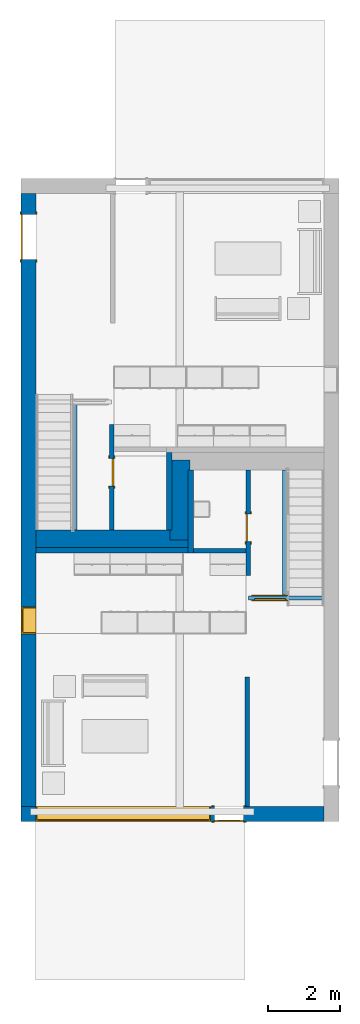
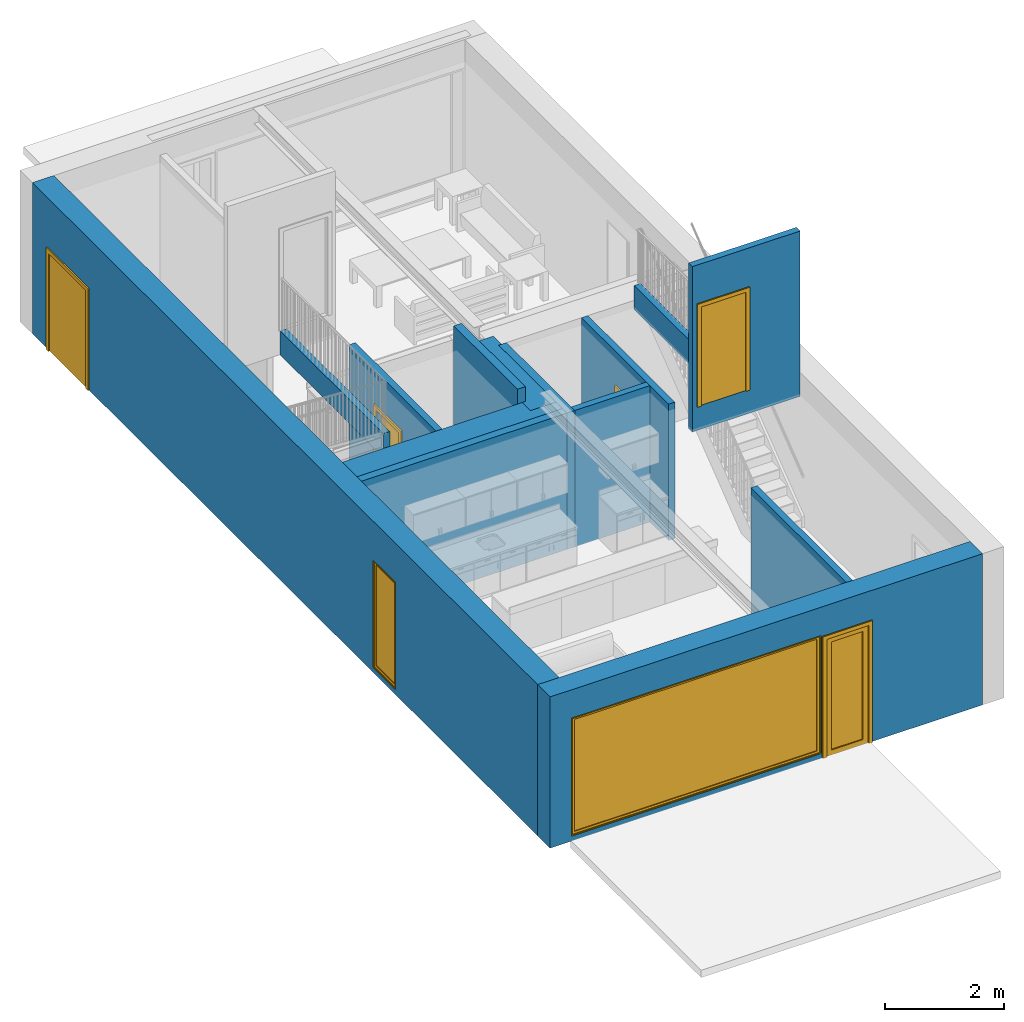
"""IFC4 building model written with IfcOpenShell, lengths in metres."""

from ifc_helpers import new_model, entity, si_unit, converted_unit, frame, frame_2d, origin, origin_2d_with_axis, place, context, project, spatial, polyline, rectangle, outline, extrude, clip, bounded_halfspace, source, transform, mapped, material, layer, layer_set, layer_usage, type_object, type_shapes, element, fill, save


model = new_model("IFC4")

# Units and contexts
model_context = context("Model", 3, precision=1e-09, world=origin())
plan_context = context("Plan", 3, precision=1e-09, world=origin())
ifc_project = project(units=[si_unit("LENGTHUNIT", "METRE"), si_unit("AREAUNIT", "SQUARE_METRE"), si_unit("VOLUMEUNIT", "CUBIC_METRE"), converted_unit("PLANEANGLEUNIT", "DEGREE", entity("IfcRatioMeasure", 0.01745329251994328), si_unit("PLANEANGLEUNIT", "RADIAN"), dimensions=[0, 0, 0, 0, 0, 0, 0]), si_unit("TIMEUNIT", "SECOND")], contexts=[model_context, plan_context])

# Site, building, storey
site_placement = place(None, origin())
site = spatial("IfcSite", under=ifc_project, at=site_placement, Name="Default", CompositionType="ELEMENT")
building_placement = place(site_placement, origin())
building = spatial("IfcBuilding", under=site, at=building_placement, CompositionType="ELEMENT")
storey_1_placement = place(building_placement, origin())
storey_1 = spatial("IfcBuildingStorey", under=building, at=storey_1_placement, Name="Level 1", CompositionType="ELEMENT", Elevation=0.0)

# Wall, opening
ifc_material_1 = material(Name="Plasterboard")
ifc_layer_1 = layer(ifc_material_1, 0.016)
ifc_material_2 = material(Name="Metal - Stud Layer")
ifc_layer_2 = layer(ifc_material_2, 0.092)
ifc_layer_3 = layer(ifc_material_1, 0.016)
ifc_layer_set_1 = layer_set([ifc_layer_1, ifc_layer_2, ifc_layer_3], Name="Basic Wall:Interior - Partition (92mm Stud)")
ifc_layer_usage_1 = layer_usage(ifc_layer_set_1, "AXIS2", "NEGATIVE", 0.062)
wall_1_placement = place(storey_1_placement, frame((8.382999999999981, -11.612, 2.612000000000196), z_axis=(0.0, 0.0, 1.0), x_axis=(-1.0, 0.0, 0.0)))
wall_1 = element("IfcWall", 1, at=wall_1_placement, inside=storey_1, material=ifc_layer_usage_1, Name="Basic Wall:Interior - Partition (92mm Stud)", ObjectType="Basic Wall:Interior - Partition (92mm Stud)", PredefinedType="SOLIDWALL", context=model_context, shape_type="SweptSolid", body=[
    extrude(rectangle(XDim=2.088999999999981, YDim=0.1240000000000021, at=frame_2d((1.04449999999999, 0.0), x_axis=(-1.0, 0.0))), origin(), (0.0, 0.0, 1.0), 3.388000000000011),
])
opening_1_placement = place(wall_1_placement, frame((1.061699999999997, -0.06200000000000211, 0.4880000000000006)))
opening_1 = element("IfcOpeningElement", 2, at=opening_1_placement, cuts=wall_1, Name="M_Single-Flush:0864 x 2032mm:0864 x 2032mm:1", ObjectType="Opening", context=model_context, shape_type="SweptSolid", body=[
    extrude(rectangle(XDim=0.8639999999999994, YDim=2.032, at=frame_2d((1.016, 0.4319999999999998), x_axis=(0.0, 1.0))), frame((0.0, 0.0, 0.0), z_axis=(0.0, 1.0, 0.0), x_axis=(0.0, 0.0, 1.0)), (0.0, 0.0, 1.0), 0.124),
])

# Storey
storey_2_placement = place(building_placement, frame((0.0, 0.0, 3.100000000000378)))
storey_2 = spatial("IfcBuildingStorey", under=building, at=storey_2_placement, Name="Level 2", CompositionType="ELEMENT", Elevation=3.100000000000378)

# Door
door_type_1 = type_object("IfcDoorType", Name="0864 x 2032mm", OperationType="SINGLE_SWING_RIGHT", ParameterTakesPrecedence=False, PredefinedType="DOOR")
shared_shape_1 = source(origin(), model_context, "Body", "SweptSolid", [
    extrude(outline(polyline([(-0.5079999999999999, -1.072999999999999), (0.5079999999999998, -1.072999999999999), (0.5079999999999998, 1.035000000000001), (0.4319999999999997, 1.035000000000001), (0.4319999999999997, -0.9970000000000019), (-0.4319999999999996, -0.9970000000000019), (-0.4319999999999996, 1.035000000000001), (-0.5079999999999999, 1.035000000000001), (-0.5079999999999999, -1.072999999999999)])), frame((0.4320000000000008, 0.1239999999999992, 1.035000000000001), z_axis=(0.0, 1.0, 0.0), x_axis=(1.0, 0.0, 0.0)), (0.0, 0.0, 1.0), 0.02499999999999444),
    extrude(outline(polyline([(-1.073, -0.5079999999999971), (1.035, -0.5079999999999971), (1.035, -0.4320000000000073), (-0.9969999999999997, -0.4320000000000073), (-0.9969999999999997, 0.4320000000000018), (1.035, 0.4320000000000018), (1.035, 0.5080000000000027), (-1.073, 0.5080000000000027), (-1.073, -0.5079999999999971)])), frame((0.4320000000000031, -0.02500000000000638, 1.035), z_axis=(0.0, 1.0, 0.0), x_axis=(0.0, 0.0, -1.0)), (0.0, 0.0, 1.0), 0.02500000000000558),
    extrude(rectangle(XDim=0.051, YDim=0.8639999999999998, at=origin_2d_with_axis()), frame((0.4320000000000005, 0.0984999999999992, 0.0), z_axis=(0.0, 0.0, 1.0), x_axis=(0.0, 1.0, 0.0)), (0.0, 0.0, 1.0), 2.032),
])
type_shapes(door_type_1, [shared_shape_1])
door_1_placement = place(opening_1_placement, origin())
door_1 = element("IfcDoor", 3, at=door_1_placement, inside=storey_2, type_object=door_type_1, Name="M_Single-Flush:0864 x 2032mm:0864 x 2032mm", ObjectType="0864 x 2032mm", OverallHeight=2.032, OverallWidth=0.8639999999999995, context=model_context, shape_type="MappedRepresentation", body=[
    mapped(shared_shape_1, transform((0.0, 0.0, 0.0), scale=1.0)),
])

fill(opening_1, door_1)

# Wall
ifc_layer_4 = layer(ifc_material_2, 0.136)
ifc_layer_5 = layer(ifc_material_1, 0.016)
ifc_layer_set_2 = layer_set([ifc_layer_4, ifc_layer_5], Name="Basic Wall:Interior - Furring (152 mm Stud)")
ifc_layer_usage_2 = layer_usage(ifc_layer_set_2, "AXIS2", "POSITIVE", -0.07600000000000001)
wall_2_placement = place(storey_1_placement, frame((4.105999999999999, -9.725000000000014, 0.0), z_axis=(0.0, 0.0, 1.0), x_axis=(0.0, 1.0, 0.0)))
element("IfcWall", 4, at=wall_2_placement, inside=storey_1, material=ifc_layer_usage_2, Name="Basic Wall:Interior - Furring (152 mm Stud)", ObjectType="Basic Wall:Interior - Furring (152 mm Stud)", PredefinedType="SOLIDWALL", context=model_context, shape_type="SweptSolid", body=[
    extrude(rectangle(XDim=2.143000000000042, YDim=0.1520000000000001, at=frame_2d((1.071500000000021, 0.0), x_axis=(-1.0, 0.0))), origin(), (0.0, 0.0, 1.0), 3.100000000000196),
])

# Wall, opening, door
ifc_layer_usage_3 = layer_usage(ifc_layer_set_1, "AXIS2", "NEGATIVE", 0.062)
wall_3_placement = place(storey_1_placement, frame((6.287999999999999, -10.99500000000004, 0.0), z_axis=(0.0, 0.0, 1.0), x_axis=(0.0, 1.0, 0.0)))
wall_3 = element("IfcWall", 5, at=wall_3_placement, inside=storey_1, material=ifc_layer_usage_3, Name="Basic Wall:Interior - Partition (92mm Stud)", ObjectType="Basic Wall:Interior - Partition (92mm Stud)", PredefinedType="SOLIDWALL", context=model_context, shape_type="SweptSolid", body=[
    extrude(rectangle(XDim=2.92000000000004, YDim=0.124, at=frame_2d((1.46000000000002, 0.0), x_axis=(-1.0, 0.0))), origin(), (0.0, 0.0, 1.0), 2.795000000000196),
])
opening_2_placement = place(wall_3_placement, frame((0.9420000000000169, -0.06200000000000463, 0.0)))
opening_2 = element("IfcOpeningElement", 6, at=opening_2_placement, cuts=wall_3, Name="M_Single-Flush:0762 x 2032mm:0762 x 2032mm:1", ObjectType="Opening", context=model_context, shape_type="SweptSolid", body=[
    extrude(rectangle(XDim=0.7619999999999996, YDim=2.032, at=frame_2d((1.016, 0.3810000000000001), x_axis=(0.0, -1.0))), frame((0.0, 0.0, 0.0), z_axis=(0.0, 1.0, 0.0), x_axis=(0.0, 0.0, 1.0)), (0.0, 0.0, 1.0), 0.124),
])
door_type_2 = type_object("IfcDoorType", Name="0762 x 2032mm", OperationType="SINGLE_SWING_LEFT", ParameterTakesPrecedence=False, PredefinedType="DOOR")
shared_shape_2 = source(origin(), model_context, "Body", "SweptSolid", [
    extrude(outline(polyline([(-0.457, -1.072999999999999), (0.4569999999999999, -1.072999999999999), (0.4569999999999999, 1.035000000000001), (0.3809999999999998, 1.035000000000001), (0.3809999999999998, -0.9970000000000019), (-0.3809999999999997, -0.9970000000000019), (-0.3809999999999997, 1.035000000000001), (-0.457, 1.035000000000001), (-0.457, -1.072999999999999)])), frame((0.381, 0.1489999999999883, 1.035000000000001), z_axis=(0.0, -1.0, 0.0), x_axis=(-1.0, 0.0, 0.0)), (0.0, 0.0, 1.0), 0.02499999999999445),
    extrude(outline(polyline([(-1.073, -0.4569999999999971), (1.035, -0.4569999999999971), (1.035, -0.3810000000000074), (-0.9969999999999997, -0.3810000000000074), (-0.9969999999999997, 0.3810000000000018), (1.035, 0.3810000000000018), (1.035, 0.4570000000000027), (-1.073, 0.4570000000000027), (-1.073, -0.4569999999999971)])), frame((0.3809999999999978, 0.0, 1.035), z_axis=(0.0, -1.0, 0.0), x_axis=(0.0, 0.0, -1.0)), (0.0, 0.0, 1.0), 0.02500000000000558),
    extrude(rectangle(XDim=0.7619999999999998, YDim=0.051, at=origin_2d_with_axis()), frame((0.3810000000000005, 0.09849999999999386, 0.0)), (0.0, 0.0, 1.0), 2.032),
])
type_shapes(door_type_2, [shared_shape_2])
door_2_placement = place(opening_2_placement, origin())
door_2 = element("IfcDoor", 7, at=door_2_placement, inside=storey_1, type_object=door_type_2, Name="M_Single-Flush:0762 x 2032mm:0762 x 2032mm", ObjectType="0762 x 2032mm", OverallHeight=2.032, OverallWidth=0.7619999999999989, context=model_context, shape_type="MappedRepresentation", body=[
    mapped(shared_shape_2, transform((0.0, 0.0, 0.0), scale=1.0)),
])
fill(opening_2, door_2)

# Walls
ifc_layer_usage_4 = layer_usage(ifc_layer_set_1, "AXIS2", "NEGATIVE", 0.062)
wall_4_placement = place(storey_1_placement, frame((4.769999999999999, -10.30800000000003, 0.0)))
element("IfcWall", 8, at=wall_4_placement, inside=storey_1, material=ifc_layer_usage_4, Name="Basic Wall:Interior - Partition (92mm Stud)", ObjectType="Basic Wall:Interior - Partition (92mm Stud)", PredefinedType="SOLIDWALL", context=model_context, shape_type="SweptSolid", body=[
    extrude(rectangle(XDim=1.456000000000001, YDim=0.1240000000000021, at=frame_2d((0.7280000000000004, 0.0), x_axis=(-1.0, 0.0))), origin(), (0.0, 0.0, 1.0), 2.795000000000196),
])
ifc_layer_6 = layer(ifc_material_1, 0.016)
ifc_layer_7 = layer(ifc_material_2, 0.041)
ifc_material_3 = material(Name="Masonry - Concrete Block")
ifc_layer_8 = layer(ifc_material_3, 0.193)
ifc_material_4 = material(Name="Misc. Air Layers - Air Space")
ifc_layer_9 = layer(ifc_material_4, 0.05)
ifc_layer_10 = layer(ifc_material_3, 0.193)
ifc_layer_11 = layer(ifc_material_2, 0.041)
ifc_layer_12 = layer(ifc_material_1, 0.016)
ifc_layer_set_3 = layer_set([ifc_layer_6, ifc_layer_7, ifc_layer_8, ifc_layer_9, ifc_layer_10, ifc_layer_11, ifc_layer_12], Name="Basic Wall:Party Wall - CMU Residential Unit Dimising Wall")
ifc_layer_usage_5 = layer_usage(ifc_layer_set_3, "AXIS2", "NEGATIVE", 0.2750000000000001)
wall_5_placement = place(storey_1_placement, frame((0.4169999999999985, -10.0, 0.0)))
element("IfcWall", 9, at=wall_5_placement, inside=storey_1, material=ifc_layer_usage_5, Name="Basic Wall:Party Wall - CMU Residential Unit Dimising Wall", ObjectType="Basic Wall:Party Wall - CMU Residential Unit Dimising Wall", PredefinedType="SOLIDWALL", context=model_context, shape_type="Clipping", body=[
    clip(clip(extrude(rectangle(XDim=4.201000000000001, YDim=0.5499999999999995, at=frame_2d((2.1005, 0.0), x_axis=(-1.0, 0.0))), origin(), (0.0, 0.0, 1.0), 2.795000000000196), bounded_halfspace(frame((0.0, -0.2180000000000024, 0.0), z_axis=(0.0, 1.0, 0.0), x_axis=(-1.0, 0.0, 0.0)), True, frame((0.0, -0.2180000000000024, 0.0), z_axis=(0.0, 1.0, 0.0), x_axis=(-1.0, 0.0, 0.0)), polyline([(0.0, 0.0), (0.0, 2.795000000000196), (-4.201, 2.795000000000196), (-4.201, 0.0), (0.0, 0.0)]))), bounded_halfspace(frame((4.201000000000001, 0.2749999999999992, 0.0), z_axis=(-1.0, 0.0, 0.0), x_axis=(0.0, -1.0, 0.0)), True, frame((4.201000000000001, 0.2749999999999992, 0.0), z_axis=(-1.0, 0.0, 0.0), x_axis=(0.0, -1.0, 0.0)), polyline([(0.0, 0.0), (0.4929999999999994, 0.0), (0.4929999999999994, 2.795000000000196), (0.0, 2.795000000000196), (0.0, 0.0)]))),
])
ifc_layer_usage_6 = layer_usage(ifc_layer_set_3, "AXIS2", "NEGATIVE", 0.2750000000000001)
wall_6_placement = place(storey_1_placement, frame((4.4, -10.0, 0.0), z_axis=(0.0, 0.0, 1.0), x_axis=(0.0, 1.0, 0.0)))
element("IfcWall", 10, at=wall_6_placement, inside=storey_1, material=ifc_layer_usage_6, Name="Basic Wall:Party Wall - CMU Residential Unit Dimising Wall", ObjectType="Basic Wall:Party Wall - CMU Residential Unit Dimising Wall", PredefinedType="SOLIDWALL", context=model_context, shape_type="Clipping", body=[
    clip(clip(extrude(rectangle(XDim=2.200000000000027, YDim=0.5500000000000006, at=frame_2d((1.100000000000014, 0.0), x_axis=(-1.0, 0.0))), origin(), (0.0, 0.0, 1.0), 2.795000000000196), bounded_halfspace(frame((1.925000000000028, 0.218000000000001, 0.0), z_axis=(0.0, -1.0, 0.0), x_axis=(1.0, 0.0, 0.0)), True, frame((1.925000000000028, 0.218000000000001, 0.0), z_axis=(0.0, -1.0, 0.0), x_axis=(1.0, 0.0, 0.0)), polyline([(0.0, 0.0), (0.0, 2.795000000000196), (-1.650000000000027, 2.795000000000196), (-1.650000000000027, 0.0), (0.0, 0.0)]))), bounded_halfspace(frame((0.2750000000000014, -0.2180000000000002, 0.0), z_axis=(0.0, 1.0, 0.0), x_axis=(-1.0, 0.0, 0.0)), True, frame((0.2750000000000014, -0.2180000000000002, 0.0), z_axis=(0.0, 1.0, 0.0), x_axis=(-1.0, 0.0, 0.0)), polyline([(0.0, 0.0), (0.0, 2.795000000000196), (-1.650000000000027, 2.795000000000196), (-1.650000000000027, 0.0), (0.0, 0.0)]))),
])

# Wall, openings, door, window
ifc_material_5 = material(Name="Masonry - Brick")
ifc_layer_13 = layer(ifc_material_5, 0.092)
ifc_layer_14 = layer(ifc_material_4, 0.025)
ifc_material_6 = material(Name="Insulation / Thermal Barriers - Rigid insulation")
ifc_layer_15 = layer(ifc_material_6, 0.05)
ifc_layer_16 = layer(ifc_material_3, 0.193)
ifc_layer_17 = layer(ifc_material_2, 0.041)
ifc_layer_18 = layer(ifc_material_1, 0.016)
ifc_layer_set_4 = layer_set([ifc_layer_13, ifc_layer_14, ifc_layer_15, ifc_layer_16, ifc_layer_17, ifc_layer_18], Name="Basic Wall:Exterior - Brick on Block")
ifc_layer_usage_7 = layer_usage(ifc_layer_set_4, "AXIS2", "NEGATIVE", 0.2085000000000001)
wall_7_placement = place(storey_1_placement, frame((0.208499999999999, -17.38299999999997, 0.0), z_axis=(0.0, 0.0, 1.0), x_axis=(0.0, 1.0, 0.0)))
wall_7 = element("IfcWall", 11, at=wall_7_placement, inside=storey_1, material=ifc_layer_usage_7, Name="Basic Wall:Exterior - Brick on Block", ObjectType="Basic Wall:Exterior - Brick on Block", PredefinedType="SOLIDWALL", context=model_context, shape_type="SweptSolid", body=[
    extrude(rectangle(XDim=16.96599999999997, YDim=0.4170000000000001, at=frame_2d((8.482999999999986, 0.0), x_axis=(-1.0, 0.0))), origin(), (0.0, 0.0, 1.0), 3.100000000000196),
])
opening_3_placement = place(wall_7_placement, frame((4.777999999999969, -0.2084999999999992, 0.1000000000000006)))
opening_3 = element("IfcOpeningElement", 12, at=opening_3_placement, cuts=wall_7, Name="M_Fixed:750mm x 2200mm:750mm x 2200mm:1", ObjectType="Opening", context=model_context, shape_type="SweptSolid", body=[
    extrude(rectangle(XDim=2.199999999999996, YDim=0.7499999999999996, at=frame_2d((1.099999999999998, 0.3749999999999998), x_axis=(1.0, 0.0))), frame((0.0, 0.0, 0.0), z_axis=(0.0, 1.0, 0.0), x_axis=(0.0, 0.0, 1.0)), (0.0, 0.0, 1.0), 0.4170000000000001),
])
opening_4_placement = place(wall_7_placement, frame((15.13599999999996, -0.2085000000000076, 0.0)))
opening_4 = element("IfcOpeningElement", 13, at=opening_4_placement, cuts=wall_7, Name="M_Single-Flush:1250mm x 2010mm:1250mm x 2010mm:1", ObjectType="Opening", context=model_context, shape_type="SweptSolid", body=[
    extrude(rectangle(XDim=1.249999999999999, YDim=2.009999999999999, at=frame_2d((1.005, 0.6249999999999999), x_axis=(0.0, 1.0))), frame((0.0, 0.0, 0.0), z_axis=(0.0, 1.0, 0.0), x_axis=(0.0, 0.0, 1.0)), (0.0, 0.0, 1.0), 0.4170000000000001),
])
door_type_3 = type_object("IfcDoorType", Name="1250mm x 2010mm", OperationType="SINGLE_SWING_RIGHT", ParameterTakesPrecedence=False, PredefinedType="DOOR")
shared_shape_3 = source(origin(), model_context, "Body", "SweptSolid", [
    extrude(outline(polyline([(-0.7009999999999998, -1.061999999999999), (0.7009999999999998, -1.061999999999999), (0.7009999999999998, 1.024), (0.6249999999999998, 1.024), (0.6249999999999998, -0.9860000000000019), (-0.6249999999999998, -0.9860000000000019), (-0.6249999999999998, 1.024), (-0.7009999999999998, 1.024), (-0.7009999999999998, -1.061999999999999)])), frame((0.6250000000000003, 0.4169999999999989, 1.024), z_axis=(0.0, 1.0, 0.0), x_axis=(1.0, 0.0, 0.0)), (0.0, 0.0, 1.0), 0.02499999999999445),
    extrude(outline(polyline([(-1.062, -0.7009999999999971), (1.024, -0.7009999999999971), (1.024, -0.6250000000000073), (-0.9859999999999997, -0.6250000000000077), (-0.9859999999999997, 0.6250000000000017), (1.024, 0.6250000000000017), (1.024, 0.7010000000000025), (-1.062, 0.7010000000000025), (-1.062, -0.7009999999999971)])), frame((0.6250000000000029, -0.02500000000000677, 1.024), z_axis=(0.0, 1.0, 0.0), x_axis=(0.0, 0.0, -1.0)), (0.0, 0.0, 1.0), 0.02500000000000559),
    extrude(rectangle(XDim=0.05100000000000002, YDim=1.25, at=origin_2d_with_axis()), frame((0.6250000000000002, 0.3914999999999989, 0.0), z_axis=(0.0, 0.0, 1.0), x_axis=(0.0, 1.0, 0.0)), (0.0, 0.0, 1.0), 2.009999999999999),
])
type_shapes(door_type_3, [shared_shape_3])
door_3_placement = place(opening_4_placement, origin())
door_3 = element("IfcDoor", 14, at=door_3_placement, inside=storey_1, type_object=door_type_3, Name="M_Single-Flush:1250mm x 2010mm:1250mm x 2010mm", ObjectType="1250mm x 2010mm", OverallHeight=2.009999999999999, OverallWidth=1.25, context=model_context, shape_type="MappedRepresentation", body=[
    mapped(shared_shape_3, transform((0.0, 0.0, 0.0), scale=1.0)),
])
fill(opening_4, door_3)
window_type_1 = type_object("IfcWindowType", Name="750mm x 2200mm", ParameterTakesPrecedence=False, PartitioningType="NOTDEFINED", PredefinedType="WINDOW")
shared_shape_4 = source(origin(), model_context, "Body", "SweptSolid", [
    extrude(rectangle(XDim=0.01199999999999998, YDim=0.623999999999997, at=origin_2d_with_axis()), frame((0.375000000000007, 0.3759999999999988, 0.06299999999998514), z_axis=(0.0, 0.0, 1.0), x_axis=(0.0, -1.0, 0.0)), (0.0, 0.0, 1.0), 2.074000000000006),
    extrude(outline(polyline([(-0.3559999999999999, -1.081000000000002), (0.3559999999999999, -1.081000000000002), (0.3559999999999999, 1.081000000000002), (-0.3559999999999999, 1.081000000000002), (-0.3559999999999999, -1.081000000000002)]), holes=[polyline([(-0.3119999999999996, -1.037000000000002), (-0.3119999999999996, 1.037000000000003), (0.3119999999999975, 1.037000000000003), (0.3119999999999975, -1.037000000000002), (-0.3119999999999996, -1.037000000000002)])]), frame((0.3750000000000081, 0.3539999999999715, 1.099999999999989), z_axis=(0.0, 1.0, 0.0), x_axis=(1.0, 0.0, 0.0)), (0.0, 0.0, 1.0), 0.04400000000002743),
    extrude(outline(polyline([(-0.3749999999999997, -1.099999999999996), (0.3749999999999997, -1.099999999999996), (0.3749999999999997, 1.099999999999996), (-0.3749999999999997, 1.099999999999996), (-0.3749999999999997, -1.099999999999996)]), holes=[polyline([(-0.3560000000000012, -1.080999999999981), (-0.3560000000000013, 1.081000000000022), (0.3559999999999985, 1.081000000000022), (0.3559999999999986, -1.080999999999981), (-0.3560000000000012, -1.080999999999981)])]), frame((0.3750000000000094, 0.3539999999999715, 1.100000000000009), z_axis=(0.0, 1.0, 0.0), x_axis=(1.0, 0.0, 0.0)), (0.0, 0.0, 1.0), 0.06300000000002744),
    extrude(outline(polyline([(-0.3750000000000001, -1.099999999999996), (0.3750000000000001, -1.099999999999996), (0.3750000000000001, 1.099999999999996), (-0.3750000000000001, 1.099999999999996), (-0.3750000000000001, -1.099999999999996)]), holes=[polyline([(-0.3429999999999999, -1.067999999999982), (-0.3429999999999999, 1.06800000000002), (0.3430000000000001, 1.06800000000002), (0.3430000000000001, -1.067999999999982), (-0.3429999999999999, -1.067999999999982)])]), frame((0.3750000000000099, 0.0, 1.100000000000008), z_axis=(0.0, 1.0, 0.0), x_axis=(1.0, 0.0, 0.0)), (0.0, 0.0, 1.0), 0.3539999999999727),
])
type_shapes(window_type_1, [shared_shape_4])
window_1_placement = place(opening_3_placement, origin())
window_1 = element("IfcWindow", 15, at=window_1_placement, inside=storey_1, type_object=window_type_1, Name="M_Fixed:750mm x 2200mm:750mm x 2200mm", ObjectType="750mm x 2200mm", OverallHeight=2.199999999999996, OverallWidth=0.7499999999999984, context=model_context, shape_type="MappedRepresentation", body=[
    mapped(shared_shape_4, transform((0.0, 0.0, 0.0), scale=1.0)),
])
fill(opening_3, window_1)

# Walls
ifc_layer_usage_8 = layer_usage(ifc_layer_set_2, "AXIS2", "POSITIVE", -0.07600000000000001)
wall_8_placement = place(storey_1_placement, frame((4.694000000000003, -8.07499999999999, 0.0), z_axis=(0.0, 0.0, 1.0), x_axis=(0.0, -1.0, 0.0)))
element("IfcWall", 16, at=wall_8_placement, inside=storey_1, material=ifc_layer_usage_8, Name="Basic Wall:Interior - Furring (152 mm Stud)", ObjectType="Basic Wall:Interior - Furring (152 mm Stud)", PredefinedType="SOLIDWALL", context=model_context, shape_type="SweptSolid", body=[
    extrude(rectangle(XDim=2.295000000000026, YDim=0.1520000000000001, at=frame_2d((1.147500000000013, 0.0), x_axis=(-1.0, 0.0))), origin(), (0.0, 0.0, 1.0), 2.795000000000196),
])
ifc_layer_usage_9 = layer_usage(ifc_layer_set_2, "AXIS2", "NEGATIVE", 0.07600000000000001)
wall_9_placement = place(storey_1_placement, frame((0.4169999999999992, -10.294, 0.0)))
element("IfcWall", 17, at=wall_9_placement, inside=storey_1, material=ifc_layer_usage_9, Name="Basic Wall:Interior - Furring (152 mm Stud)", ObjectType="Basic Wall:Interior - Furring (152 mm Stud)", PredefinedType="SOLIDWALL", context=model_context, shape_type="SweptSolid", body=[
    extrude(rectangle(XDim=4.201, YDim=0.1520000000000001, at=frame_2d((2.1005, 0.0), x_axis=(-1.0, 0.0))), origin(), (0.0, 0.0, 1.0), 2.795000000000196),
])

# Wall, openings, door, window
ifc_layer_usage_10 = layer_usage(ifc_layer_set_4, "AXIS2", "NEGATIVE", 0.2085000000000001)
wall_10_placement = place(storey_1_placement, frame((8.382999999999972, -17.5915, 0.0), z_axis=(0.0, 0.0, 1.0), x_axis=(-1.0, 0.0, 0.0)))
wall_10 = element("IfcWall", 18, at=wall_10_placement, inside=storey_1, material=ifc_layer_usage_10, Name="Basic Wall:Exterior - Brick on Block", ObjectType="Basic Wall:Exterior - Brick on Block", PredefinedType="SOLIDWALL", context=model_context, shape_type="SweptSolid", body=[
    extrude(rectangle(XDim=8.382999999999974, YDim=0.4170000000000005, at=frame_2d((4.191499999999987, 0.0), x_axis=(-1.0, 0.0))), origin(), (0.0, 0.0, 1.0), 3.100000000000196),
])
opening_5_placement = place(wall_10_placement, frame((2.217999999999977, -0.2084999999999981, 0.0)))
opening_5 = element("IfcOpeningElement", 19, at=opening_5_placement, cuts=wall_10, Name="M_Single-Glass 1:0813 x 2420mm:0813 x 2420mm:1", ObjectType="Opening", context=model_context, shape_type="SweptSolid", body=[
    extrude(rectangle(XDim=0.8129999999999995, YDim=2.42, at=frame_2d((1.21, 0.4064999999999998), x_axis=(0.0, -1.0))), frame((0.0, 0.0, 0.0), z_axis=(0.0, 1.0, 0.0), x_axis=(0.0, 0.0, 1.0)), (0.0, 0.0, 1.0), 0.4170000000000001),
])
opening_6_placement = place(wall_10_placement, frame((3.130999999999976, -0.2085000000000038, 0.1000000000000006)))
opening_6 = element("IfcOpeningElement", 20, at=opening_6_placement, cuts=wall_10, Name="M_Fixed:4835mm x 2420mm:4835mm x 2420mm:1", ObjectType="Opening", context=model_context, shape_type="SweptSolid", body=[
    extrude(rectangle(XDim=2.419999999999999, YDim=4.834999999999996, at=frame_2d((1.209999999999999, 2.417499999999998), x_axis=(1.0, 0.0))), frame((0.0, 0.0, 0.0), z_axis=(0.0, 1.0, 0.0), x_axis=(0.0, 0.0, 1.0)), (0.0, 0.0, 1.0), 0.4170000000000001),
])
door_type_4 = type_object("IfcDoorType", Name="0813 x 2420mm", OperationType="SINGLE_SWING_LEFT", ParameterTakesPrecedence=False, PredefinedType="DOOR")
shared_shape_5 = source(origin(), model_context, "Body", "SweptSolid", [
    extrude(outline(polyline([(-0.4065000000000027, -1.191), (-0.4065000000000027, 1.229), (-0.4824999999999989, 1.229), (-0.4824999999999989, -1.267), (0.4825000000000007, -1.267), (0.4825000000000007, 1.229), (0.4065000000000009, 1.229), (0.4065000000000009, -1.191), (-0.4065000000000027, -1.191)])), frame((0.4065, 0.0, 1.229), z_axis=(0.0, 1.0, 0.0), x_axis=(1.0, 0.0, 0.0)), (0.0, 0.0, -1.0), 0.025),
    extrude(outline(polyline([(-0.4065000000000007, -1.191), (-0.4065000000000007, 1.228999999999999), (-0.4824999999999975, 1.228999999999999), (-0.4824999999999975, -1.267), (0.4824999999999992, -1.267), (0.4824999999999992, 1.228999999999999), (0.4064999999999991, 1.228999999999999), (0.4064999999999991, -1.191), (-0.4065000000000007, -1.191)])), frame((0.4065000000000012, 0.4420000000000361, 1.228999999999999), z_axis=(0.0, 1.0, 0.0), x_axis=(1.0, 0.0, 0.0)), (0.0, 0.0, -1.0), 0.02500000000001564),
    extrude(rectangle(XDim=0.6089999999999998, YDim=0.006350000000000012, at=origin_2d_with_axis()), frame((0.4065000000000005, 0.3916000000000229, 0.1020000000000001)), (0.0, 0.0, 1.0), 2.215999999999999),
    extrude(outline(polyline([(-1.21, -0.4064999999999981), (1.21, -0.4064999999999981), (1.21, 0.4064999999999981), (-1.21, 0.4064999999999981), (-1.21, -0.4064999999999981)]), holes=[polyline([(-1.108, 0.3044999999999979), (1.107999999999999, 0.3044999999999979), (1.107999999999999, -0.3045000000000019), (-1.108, -0.3045000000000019), (-1.108, 0.3044999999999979)])]), frame((0.4065000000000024, 0.4170000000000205, 1.21), z_axis=(0.0, -1.0, 0.0), x_axis=(0.0, 0.0, -1.0)), (0.0, 0.0, 1.0), 0.05100000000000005),
])
type_shapes(door_type_4, [shared_shape_5])
door_4_placement = place(opening_5_placement, origin())
door_4 = element("IfcDoor", 21, at=door_4_placement, inside=storey_1, type_object=door_type_4, Name="M_Single-Glass 1:0813 x 2420mm:0813 x 2420mm", ObjectType="0813 x 2420mm", OverallHeight=2.42, OverallWidth=0.8129999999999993, context=model_context, shape_type="MappedRepresentation", body=[
    mapped(shared_shape_5, transform((0.0, 0.0, 0.0), scale=1.0)),
])
fill(opening_5, door_4)
window_type_2 = type_object("IfcWindowType", Name="4835mm x 2420mm", ParameterTakesPrecedence=False, PartitioningType="NOTDEFINED", PredefinedType="WINDOW")
shared_shape_6 = source(origin(), model_context, "Body", "SweptSolid", [
    extrude(rectangle(XDim=0.01199999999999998, YDim=4.708999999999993, at=origin_2d_with_axis()), frame((2.417500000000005, 0.3759999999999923, 0.06299999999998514), z_axis=(0.0, 0.0, 1.0), x_axis=(0.0, -1.0, 0.0)), (0.0, 0.0, 1.0), 2.294000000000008),
    extrude(outline(polyline([(-2.398499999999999, -1.191000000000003), (2.398499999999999, -1.191000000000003), (2.398499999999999, 1.191000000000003), (-2.398499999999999, 1.191000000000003), (-2.398499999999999, -1.191000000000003)]), holes=[polyline([(-2.354499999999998, -1.147000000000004), (-2.354499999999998, 1.147000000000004), (2.354499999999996, 1.147000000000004), (2.354499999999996, -1.147000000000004), (-2.354499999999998, -1.147000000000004)])]), frame((2.417500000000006, 0.3539999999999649, 1.20999999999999), z_axis=(0.0, 1.0, 0.0), x_axis=(1.0, 0.0, 0.0)), (0.0, 0.0, 1.0), 0.04400000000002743),
    extrude(outline(polyline([(-2.417499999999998, -1.209999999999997), (2.417499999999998, -1.209999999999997), (2.417499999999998, 1.209999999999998), (-2.417499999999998, 1.209999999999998), (-2.417499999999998, -1.209999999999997)]), holes=[polyline([(-2.3985, -1.190999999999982), (-2.3985, 1.191000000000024), (2.398499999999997, 1.191000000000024), (2.398499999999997, -1.190999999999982), (-2.3985, -1.190999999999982)])]), frame((2.417500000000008, 0.3539999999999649, 1.21000000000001), z_axis=(0.0, 1.0, 0.0), x_axis=(1.0, 0.0, 0.0)), (0.0, 0.0, 1.0), 0.06300000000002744),
    extrude(outline(polyline([(-2.417499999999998, -1.209999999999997), (2.417499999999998, -1.209999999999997), (2.417499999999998, 1.209999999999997), (-2.417499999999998, 1.209999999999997), (-2.417499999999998, -1.209999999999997)]), holes=[polyline([(-2.385499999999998, -1.177999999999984), (-2.385499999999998, 1.178000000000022), (2.385499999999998, 1.178000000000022), (2.385499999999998, -1.177999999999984), (-2.385499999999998, -1.177999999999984)])]), frame((2.417500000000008, 0.0, 1.21000000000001), z_axis=(0.0, 1.0, 0.0), x_axis=(1.0, 0.0, 0.0)), (0.0, 0.0, 1.0), 0.3539999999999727),
])
type_shapes(window_type_2, [shared_shape_6])
window_2_placement = place(opening_6_placement, origin())
window_2 = element("IfcWindow", 22, at=window_2_placement, inside=storey_1, type_object=window_type_2, Name="M_Fixed:4835mm x 2420mm:4835mm x 2420mm", ObjectType="4835mm x 2420mm", OverallHeight=2.419999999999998, OverallWidth=4.834999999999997, context=model_context, shape_type="MappedRepresentation", body=[
    mapped(shared_shape_6, transform((0.0, 0.0, 0.0), scale=1.0)),
])
fill(opening_6, window_2)

# Wall, opening, door
ifc_layer_usage_11 = layer_usage(ifc_layer_set_1, "AXIS2", "NEGATIVE", 0.062)
wall_11_placement = place(storey_1_placement, frame((2.512000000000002, -6.804999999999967, 0.0), z_axis=(0.0, 0.0, 1.0), x_axis=(0.0, -1.0, 0.0)))
wall_11 = element("IfcWall", 23, at=wall_11_placement, inside=storey_1, material=ifc_layer_usage_11, Name="Basic Wall:Interior - Partition (92mm Stud)", ObjectType="Basic Wall:Interior - Partition (92mm Stud)", PredefinedType="SOLIDWALL", context=model_context, shape_type="SweptSolid", body=[
    extrude(rectangle(XDim=2.920000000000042, YDim=0.124, at=frame_2d((1.460000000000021, 0.0), x_axis=(-1.0, 0.0))), origin(), (0.0, 0.0, 1.0), 2.795000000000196),
])
opening_7_placement = place(wall_11_placement, frame((0.9440000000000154, -0.06200000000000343, 0.0)))
opening_7 = element("IfcOpeningElement", 24, at=opening_7_placement, cuts=wall_11, Name="M_Single-Flush:0762 x 2032mm:0762 x 2032mm:1", ObjectType="Opening", context=model_context, shape_type="SweptSolid", body=[
    extrude(rectangle(XDim=0.7619999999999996, YDim=2.032, at=frame_2d((1.016, 0.3810000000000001), x_axis=(0.0, -1.0))), frame((0.0, 0.0, 0.0), z_axis=(0.0, 1.0, 0.0), x_axis=(0.0, 0.0, 1.0)), (0.0, 0.0, 1.0), 0.124),
])
door_5_placement = place(opening_7_placement, origin())
door_5 = element("IfcDoor", 25, at=door_5_placement, inside=storey_1, type_object=door_type_2, Name="M_Single-Flush:0762 x 2032mm:0762 x 2032mm", ObjectType="0762 x 2032mm", OverallHeight=2.032, OverallWidth=0.762, context=model_context, shape_type="MappedRepresentation", body=[
    mapped(shared_shape_2, transform((0.0, 0.0, 0.0), scale=1.0)),
])
fill(opening_7, door_5)

# Walls
ifc_layer_usage_12 = layer_usage(ifc_layer_set_1, "AXIS2", "NEGATIVE", 0.062)
wall_12_placement = place(storey_1_placement, frame((6.262000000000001, -13.8, 0.0), z_axis=(0.0, 0.0, 1.0), x_axis=(0.0, -1.0, 0.0)))
element("IfcWall", 26, at=wall_12_placement, inside=storey_1, material=ifc_layer_usage_12, Name="Basic Wall:Interior - Partition (92mm Stud)", ObjectType="Basic Wall:Interior - Partition (92mm Stud)", PredefinedType="SOLIDWALL", context=model_context, shape_type="SweptSolid", body=[
    extrude(rectangle(XDim=3.582999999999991, YDim=0.124, at=frame_2d((1.791499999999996, 0.0), x_axis=(-1.0, 0.0))), origin(), (0.0, 0.0, 1.0), 2.795000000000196),
])
ifc_layer_usage_13 = layer_usage(ifc_layer_set_1, "AXIS2", "NEGATIVE", 0.062)
wall_13_placement = place(storey_1_placement, frame((7.306599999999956, -11.55, 2.612), z_axis=(0.0, 0.0, 1.0), x_axis=(0.0, 1.0, 0.0)))
element("IfcWall", 27, at=wall_13_placement, inside=storey_1, material=ifc_layer_usage_13, Name="Basic Wall:Interior - Partition (92mm Stud)", ObjectType="Basic Wall:Interior - Partition (92mm Stud)", PredefinedType="SOLIDWALL", context=model_context, shape_type="SweptSolid", body=[
    extrude(rectangle(XDim=3.475000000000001, YDim=0.124, at=frame_2d((1.7375, 0.0), x_axis=(-1.0, 0.0))), origin(), (0.0, 0.0, 1.0), 0.4880000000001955),
])
ifc_layer_usage_14 = layer_usage(ifc_layer_set_1, "AXIS2", "NEGATIVE", 0.062)
wall_14_placement = place(storey_1_placement, frame((1.493400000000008, -6.250000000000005, 2.612), z_axis=(0.0, 0.0, 1.0), x_axis=(0.0, -1.0, 0.0)))
element("IfcWall", 28, at=wall_14_placement, inside=storey_1, material=ifc_layer_usage_14, Name="Basic Wall:Interior - Partition (92mm Stud)", ObjectType="Basic Wall:Interior - Partition (92mm Stud)", PredefinedType="SOLIDWALL", context=model_context, shape_type="SweptSolid", body=[
    extrude(rectangle(XDim=3.475000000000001, YDim=0.124, at=frame_2d((1.737500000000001, 0.0), x_axis=(-1.0, 0.0))), origin(), (0.0, 0.0, 1.0), 0.4880000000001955),
])

save(model, "model.ifc")
